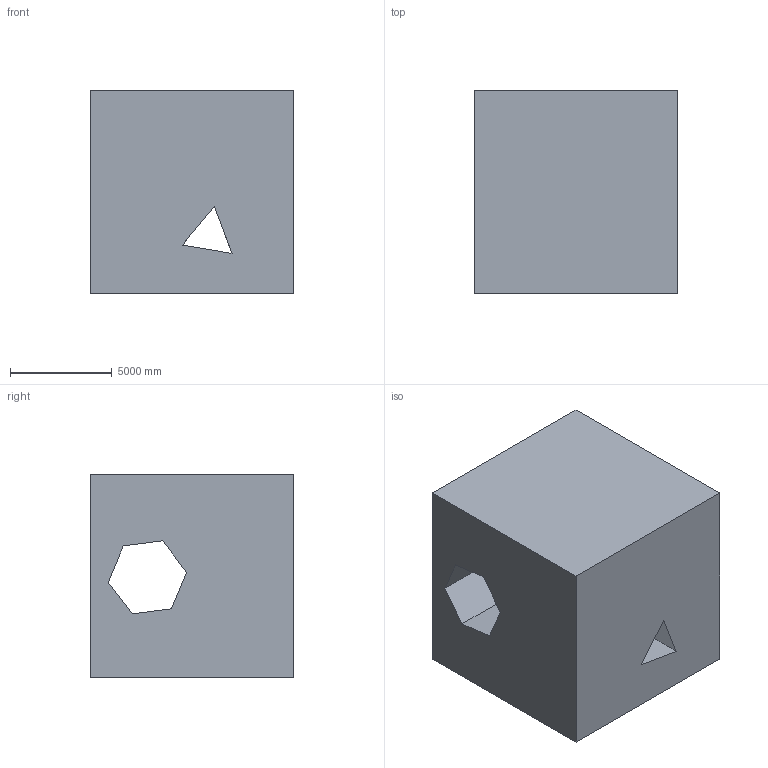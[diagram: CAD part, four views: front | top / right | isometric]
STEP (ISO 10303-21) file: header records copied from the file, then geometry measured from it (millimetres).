
FILE_DESCRIPTION (( 'STEP AP203' ), '1' );
FILE_NAME ('8.STEP', '2022-09-02T13:39:28', ( 'user' ), ( '' ), 'SwSTEP 2.0', 'SolidWorks 2021', '' );
FILE_SCHEMA (( 'CONFIG_CONTROL_DESIGN' ));
Length unit declared in the file: centimetre
Products named in the file (1): 8
Bounding box: 10000 x 10000 x 10000 mm (x, y, z)
Volume: 876680828296.7 mm3; surface area: 755674997.9 mm2
Topology: 1 solids, 1 shells, 16 faces, 48 edges, 32 vertices
Faces by surface type: plane 16
Entity records: 621 total; most frequent: CARTESIAN_POINT 97, ORIENTED_EDGE 96, DIRECTION 82, EDGE_CURVE 48, LINE 48, VECTOR 48, VERTEX_POINT 32, EDGE_LOOP 20
